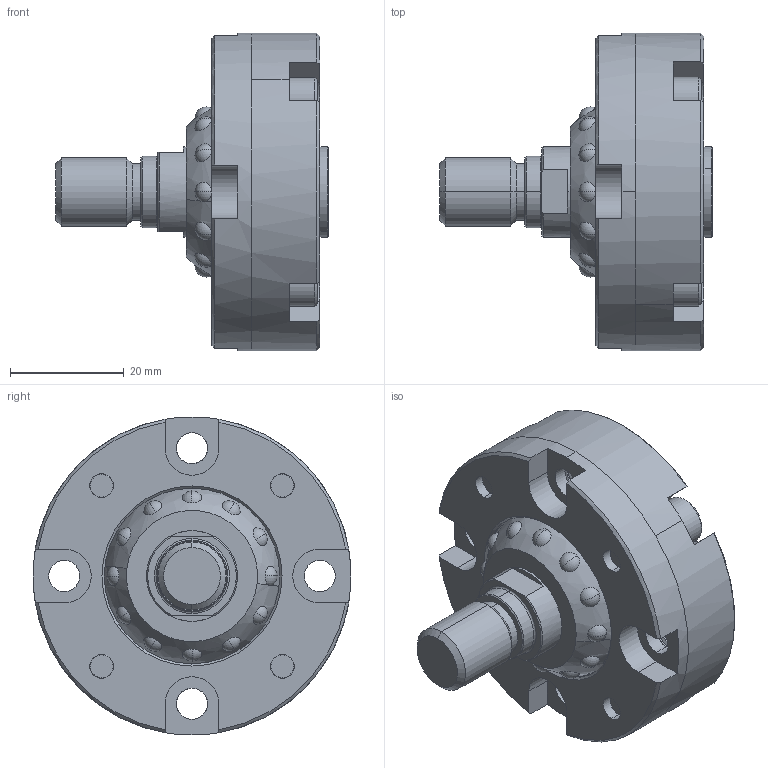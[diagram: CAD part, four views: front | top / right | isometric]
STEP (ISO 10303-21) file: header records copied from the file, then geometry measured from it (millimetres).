
FILE_DESCRIPTION (( 'STEP AP214' ), '1' );
FILE_NAME ('SRJS016C_HOUSING-B tap HP.STEP', '2025-07-15T03:30:12', ( '' ), ( '' ), 'SwSTEP 2.0', 'SolidWorks 2023', '' );
FILE_SCHEMA (( 'AUTOMOTIVE_DESIGN' ));
Length unit declared in the file: millimetre
Products named in the file (1): SRJS016C_HOUSING-B tap HP
Bounding box: 48 x 56 x 56 mm (x, y, z)
Volume: 47702.5 mm3; surface area: 15803 mm2
Topology: 2 solids, 2 shells, 283 faces, 761 edges, 499 vertices
Faces by surface type: cylinder 154, plane 49, cone 36, sphere 30, bspline 12, torus 2
Entity records: 16994 total; most frequent: CARTESIAN_POINT 10428, ORIENTED_EDGE 1496, DIRECTION 1296, EDGE_CURVE 748, AXIS2_PLACEMENT_3D 528, VERTEX_POINT 492, EDGE_LOOP 316, ADVANCED_FACE 283
